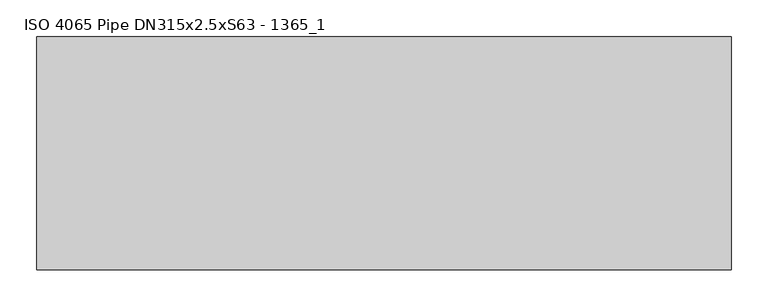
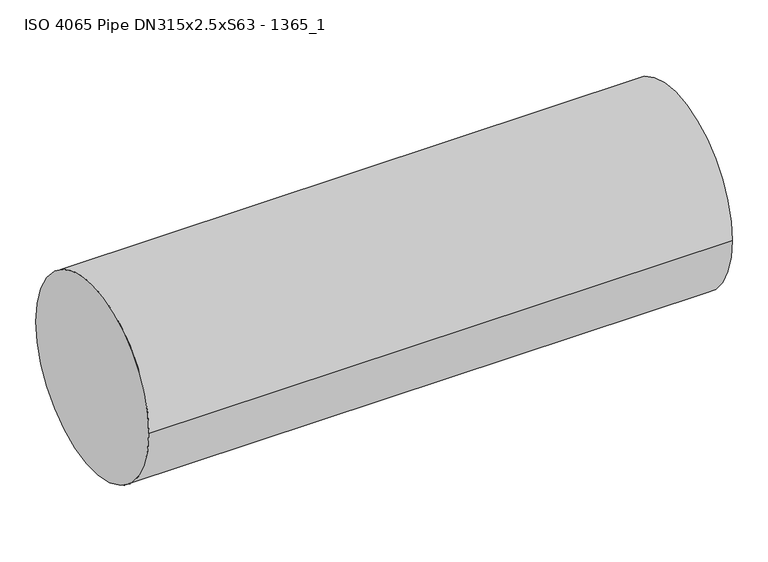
"""IFC4 building model written with IfcOpenShell, lengths in millimetres: proxy geometry, ISO 4065 Pipe DN315x2.5xS63 - 1365_1."""

import ifcopenshell
import ifcopenshell.guid

model = None  # the IFC model being written
_history = None  # IfcOwnerHistory: only IFC2X3 demands one
_inside = {}  # id of a spatial element -> (the spatial element, [elements in it])
_under = {}  # id of a project, library or spatial element -> (it, [spatial elements below it])
_declared = {}  # id of a project -> (the project, [libraries it declares])
_typed = {}  # id of a type object -> (the type object, [elements of that type])
_made_of = {}  # id of a material, layer set ... -> (it, [elements and type objects made of it])


def new_model(schema):
    """Start an empty IFC model of exactly this schema.

    Asked for "IFC4X3", IfcOpenShell would pick the latest addendum, in which some entities
    have other attributes; the version numbers below select the first issue.
    IFC2X3 requires an IfcOwnerHistory on every rooted entity: one is made here for all.
    """
    global model, _history
    if schema == "IFC4X3":
        model = ifcopenshell.file(schema_version=(4, 3, 0, 0))
    else:
        model = ifcopenshell.file(schema=schema)
    _inside.clear()
    _under.clear()
    _declared.clear()
    _typed.clear()
    _made_of.clear()
    _history = None
    if model.schema == "IFC2X3":
        org = make("IfcOrganization", Name="unknown")
        user = make(
            "IfcPersonAndOrganization",
            ThePerson=make("IfcPerson", FamilyName="unknown"),
            TheOrganization=org,
        )
        app = make(
            "IfcApplication",
            ApplicationDeveloper=org,
            Version="unknown",
            ApplicationFullName="unknown",
            ApplicationIdentifier="unknown",
        )
        _history = make(
            "IfcOwnerHistory",
            OwningUser=user,
            OwningApplication=app,
            ChangeAction="ADDED",
            CreationDate=0,
        )
    return model


def make(cls, **values):
    """One entity of the class cls with the attributes given. An attribute that is None is left unset."""
    return model.create_entity(
        cls, **{name: value for name, value in values.items() if value is not None}
    )


def rooted(cls, **values):
    """An entity with a GlobalId (a new one), such as an element, a storey or a relation."""
    return make(cls, GlobalId=ifcopenshell.guid.new(), OwnerHistory=_history, **values)


def si_unit(unit_type, name, prefix=None):
    """IfcSIUnit, for example si_unit("LENGTHUNIT", "METRE", prefix="MILLI")."""
    return make("IfcSIUnit", UnitType=unit_type, Prefix=prefix, Name=name)


def assignment(units):
    """IfcUnitAssignment: the units of a project."""
    return None if units is None else make("IfcUnitAssignment", Units=units)


def point(xyz):
    """IfcCartesianPoint."""
    return None if xyz is None else make("IfcCartesianPoint", Coordinates=xyz)


def direction(xyz):
    """IfcDirection."""
    return None if xyz is None else make("IfcDirection", DirectionRatios=xyz)


def frame(location, z_axis=None, x_axis=None):
    """IfcAxis2Placement3D, a coordinate frame: its origin and axes. An axis left out is left unset."""
    return make(
        "IfcAxis2Placement3D",
        Location=point(location),
        Axis=direction(z_axis),
        RefDirection=direction(x_axis),
    )


def origin():
    """The frame at (0, 0, 0) with its axes left unset."""
    return frame((0.0, 0.0, 0.0))


def place(relative_to, where):
    """IfcLocalPlacement: puts the frame where relative to a parent placement (None: the world)."""
    return make(
        "IfcLocalPlacement", PlacementRelTo=relative_to, RelativePlacement=where
    )


def context(
    kind, dimensions, precision=None, world=None, true_north=None, identifier=None
):
    """IfcGeometricRepresentationContext, for example the 3D "Model" context."""
    return make(
        "IfcGeometricRepresentationContext",
        ContextIdentifier=identifier,
        ContextType=kind,
        CoordinateSpaceDimension=dimensions,
        Precision=precision,
        WorldCoordinateSystem=world,
        TrueNorth=true_north,
    )


def project(units=None, contexts=None):
    """IfcProject with its units and contexts."""
    return rooted(
        "IfcProject",
        Name="project",
        RepresentationContexts=contexts,
        UnitsInContext=assignment(units),
    )


def spatial(cls, under=None, at=None, **own):
    """A site, building, storey or space (cls), placed at a placement, below another one or the project."""
    s = rooted(cls, ObjectPlacement=at, **own)
    if under is not None:
        _under.setdefault(under.id(), (under, []))[1].append(s)
    return s


def circle_curve(where, radius):
    """IfcCircle in the frame where."""
    return make("IfcCircle", Position=where, Radius=radius)


def shape(context_of_items, identifier, shape_type, items):
    """IfcShapeRepresentation: the items that make up one representation, for example the "Body"."""
    return make(
        "IfcShapeRepresentation",
        ContextOfItems=context_of_items,
        RepresentationIdentifier=identifier,
        RepresentationType=shape_type,
        Items=items,
    )


def source(mapping_origin, context_of_items, identifier, shape_type, items):
    """IfcRepresentationMap: a shape defined once, which mapped items show again and again."""
    return make(
        "IfcRepresentationMap",
        MappingOrigin=mapping_origin,
        MappedRepresentation=shape(context_of_items, identifier, shape_type, items),
    )


def transform(
    local_origin,
    x_axis=None,
    y_axis=None,
    z_axis=None,
    scale=None,
    scale2=None,
    scale3=None,
    uniform=True,
):
    """IfcCartesianTransformationOperator3D, or its non-uniform kind. x_axis, y_axis, z_axis: its Axis1, 2, 3."""
    if uniform:
        return make(
            "IfcCartesianTransformationOperator3D",
            Axis1=direction(x_axis),
            Axis2=direction(y_axis),
            LocalOrigin=point(local_origin),
            Scale=scale,
            Axis3=direction(z_axis),
        )
    return make(
        "IfcCartesianTransformationOperator3DnonUniform",
        Axis1=direction(x_axis),
        Axis2=direction(y_axis),
        LocalOrigin=point(local_origin),
        Scale=scale,
        Axis3=direction(z_axis),
        Scale2=scale2,
        Scale3=scale3,
    )


def mapped(mapping_source, mapping_target):
    """IfcMappedItem: shows the shape of a source again, moved by a transform."""
    return make(
        "IfcMappedItem", MappingSource=mapping_source, MappingTarget=mapping_target
    )


def made_of(thing, what):
    """Note that an element or type object is made of a material, layer set ...; save() writes the relation."""
    if what is not None:
        _made_of.setdefault(what.id(), (what, []))[1].append(thing)
    return thing


def element(
    cls,
    number,
    at=None,
    inside=None,
    cuts=None,
    type_object=None,
    material=None,
    context=None,
    identifier="Body",
    shape_type=None,
    held_by="IfcProductDefinitionShape",
    body=None,
    shapes=None,
    **own,
):
    """One element of the class cls, such as IfcWall. Its Tag is "e" and its number.

    at: its placement. inside: the storey or other place that contains it. cuts: it is an
    opening in that element (IfcRelVoidsElement). A single representation is given by context,
    identifier, shape_type and body (its items); several are given by shapes. held_by: the class
    of the entity that holds the representations. save() writes the other relations.
    """
    e = rooted(cls, Tag="e%d" % number, ObjectPlacement=at, **own)
    if body is not None:
        shapes = [shape(context, identifier, shape_type, body)]
    if shapes is not None:
        e.Representation = make(held_by, Representations=shapes)
    if inside is not None:
        _inside.setdefault(inside.id(), (inside, []))[1].append(e)
    if cuts is not None:
        rooted(
            "IfcRelVoidsElement", RelatingBuildingElement=cuts, RelatedOpeningElement=e
        )
    if type_object is not None:
        _typed.setdefault(type_object.id(), (type_object, []))[1].append(e)
    return made_of(e, material)


def aggregate(whole, parts):
    """IfcRelAggregates: a whole, such as a stair, and the parts it consists of."""
    return rooted("IfcRelAggregates", RelatingObject=whole, RelatedObjects=parts)


def save(model, path):
    """Write the relations noted so far, then the file.

    IfcRelAggregates (storeys below a building ...), IfcRelContainedInSpatialStructure (elements
    in a storey), IfcRelDefinesByType, IfcRelAssociatesMaterial and IfcRelDeclares: one each for
    every whole, place, type object, material and project.
    """
    for whole, parts in _under.values():
        aggregate(whole, parts)
    for where, things in _inside.values():
        rooted(
            "IfcRelContainedInSpatialStructure",
            RelatedElements=things,
            RelatingStructure=where,
        )
    for kind, things in _typed.values():
        rooted("IfcRelDefinesByType", RelatedObjects=things, RelatingType=kind)
    for what, things in _made_of.values():
        rooted("IfcRelAssociatesMaterial", RelatedObjects=things, RelatingMaterial=what)
    for by, libraries in _declared.values():
        rooted("IfcRelDeclares", RelatingContext=by, RelatedDefinitions=libraries)
    model.write(path)


def plane_surface(at):
    """IfcPlane: the flat surface through the origin of the frame at, square to its z axis."""
    return make("IfcPlane", Position=at)


def cylinder_surface(at, radius):
    """IfcCylindricalSurface: all points at the distance radius from the z axis of the frame at."""
    return make("IfcCylindricalSurface", Position=at, Radius=radius)


def advanced_brep(points, edges, surfaces, faces):
    """IfcAdvancedBrep: a solid bounded by faces that lie on surfaces and meet in shared edges.

    An edge is (start, end): straight between two places in points (the first is 0);
    or (start, end, curve); or (start, end, curve, False) where it runs against its curve.
    A face is (place in surfaces, loops), or (place, loops, False) where it looks against
    its surface's normal. A loop lists edges by number (the first is 1), with a minus sign
    where the edge is run from its end to its start. The first loop is the outer one.
    """
    corners = [point(p) for p in points]
    vertices = [make("IfcVertexPoint", VertexGeometry=c) for c in corners]
    made = []
    for start, end, *more in edges:
        made.append(
            make(
                "IfcEdgeCurve",
                EdgeStart=vertices[start],
                EdgeEnd=vertices[end],
                EdgeGeometry=more[0] if more else make("IfcPolyline", Points=[corners[start], corners[end]]),
                SameSense=more[1] if len(more) > 1 else True,
            )
        )
    hull = []
    for where, loops, *sense in faces:
        bounds = []
        for j, loop in enumerate(loops):
            ring = [make("IfcOrientedEdge", EdgeElement=made[abs(k) - 1], Orientation=k > 0) for k in loop]
            bounds.append(
                make(
                    "IfcFaceOuterBound" if j == 0 else "IfcFaceBound",
                    Bound=make("IfcEdgeLoop", EdgeList=ring),
                    Orientation=True,
                )
            )
        hull.append(make("IfcAdvancedFace", Bounds=bounds, FaceSurface=surfaces[where], SameSense=sense[0] if sense else True))
    return make("IfcAdvancedBrep", Outer=make("IfcClosedShell", CfsFaces=hull))


def iso_4065_pipe_dn315x2_5xs63_1365_1_6db18670(model_context):
    return source(origin(), model_context, "Body", "AdvancedBrep", [
        advanced_brep(
        [(0.0, -157.5, 0.0), (938.9, -157.5, 0.0), (938.9, 157.5, 0.0), (0.0, 157.5, 0.0), (938.9, 79.1795725, -136.1500837)],
        [
            (0, 1),
            (1, 2, circle_curve(frame((938.9, 0.0, 0.0), z_axis=(-1.0, 0.0, 0.0), x_axis=(0.0, -1.0, 0.0)), 157.5)),
            (2, 3),
            (3, 0, circle_curve(frame((0.0, 0.0, 0.0), z_axis=(1.0, 0.0, 0.0), x_axis=(0.0, -1.0, 0.0)), 157.5)),
            (3, 0, circle_curve(frame((0.0, 0.0, 0.0), z_axis=(-1.0, 0.0, 0.0), x_axis=(0.0, -1.0, 0.0)), 157.5)),
            (1, 4, circle_curve(frame((938.9, 0.0, 0.0), z_axis=(1.0, 0.0, 0.0), x_axis=(0.0, -1.0, 0.0)), 157.5)),
            (4, 2, circle_curve(frame((938.9, 0.0, 0.0), z_axis=(1.0, 0.0, 0.0), x_axis=(0.0, -1.0, 0.0)), 157.5)),
        ],
        [
            cylinder_surface(frame((0.0, 0.0, 0.0), z_axis=(1.0, 0.0, 0.0), x_axis=(0.0, -1.0, 0.0)), 157.5),
            plane_surface(frame((0.0, 0.0, 0.0), z_axis=(-1.0, 0.0, 0.0), x_axis=(0.0, 0.0, 1.0))),
            plane_surface(frame((938.9, 0.0, 0.0), z_axis=(1.0, 0.0, 0.0), x_axis=(0.0, 0.5027274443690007, -0.8644449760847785))),
        ],
        [
            (0, [[1, 2, 3, 4]]),
            (1, [[5, -4]]),
            (2, [[6, 7, -2]]),
            (0, [[-1, -5, -3, -7, -6]]),
        ],
    ),
    ])


if __name__ == "__main__":
    model = new_model("IFC4")
    model_context = context("Model", 3, world=origin())
    ifc_project = project(units=[si_unit("LENGTHUNIT", "METRE", prefix="MILLI")], contexts=[model_context])
    site = spatial("IfcSite", under=ifc_project)
    building = spatial("IfcBuilding", under=site)
    placement = place(None, origin())
    iso_4065_pipe_dn315x2_5xs63_1365_1_shape = iso_4065_pipe_dn315x2_5xs63_1365_1_6db18670(model_context)
    element("IfcBuildingElementProxy", 1, Name="ISO 4065 Pipe DN315x2.5xS63 - 1365_1", ObjectType="ISO 4065 Pipe DN315x2.5xS63 - 1365_1", at=placement, inside=building, context=model_context, shape_type="MappedRepresentation", body=[
        mapped(iso_4065_pipe_dn315x2_5xs63_1365_1_shape, transform((0.0, 0.0, 0.0), x_axis=(1.0, 0.0, 0.0), y_axis=(0.0, 1.0, 0.0), z_axis=(0.0, 0.0, 1.0))),
    ])
    save(model, "model.ifc")
